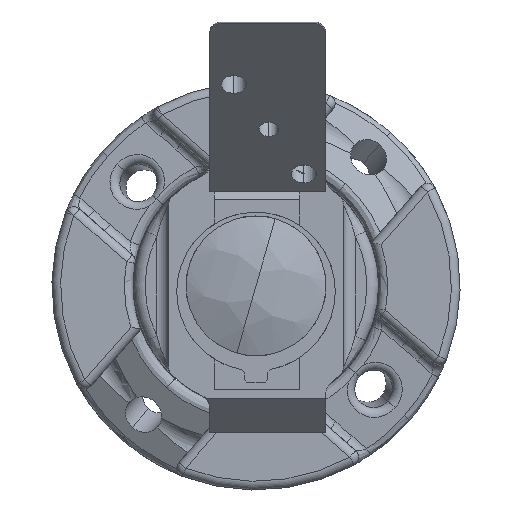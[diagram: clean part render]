
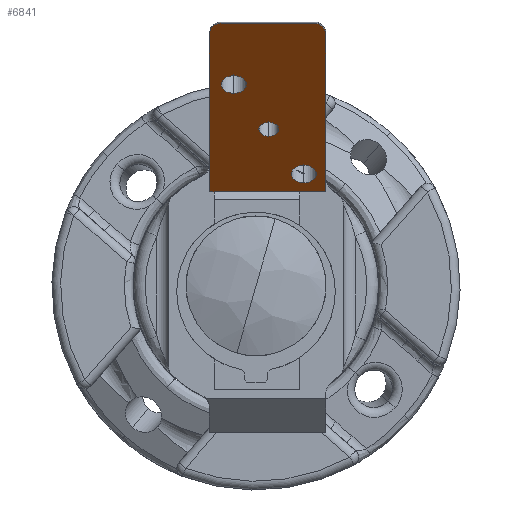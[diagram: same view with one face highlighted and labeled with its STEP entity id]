
A CAD part, left-side view. The second image highlights one B-rep face of the part: STEP entity #6841.
In plain terms, the highlighted planar face has unit normal (-0.699, 0, -0.715) as drawn and (-1, 0, 0) by its records, which use the part's own axes.
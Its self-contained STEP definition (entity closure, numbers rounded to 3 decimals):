
#52 = CARTESIAN_POINT ( 'NONE',  ( 0., 2.1, -13.167 ) ) ;
#118 = CARTESIAN_POINT ( 'NONE',  ( 0., 2.1, -13.167 ) ) ;
#126 = CARTESIAN_POINT ( 'NONE',  ( 0., 1., -20.667 ) ) ;
#142 = VERTEX_POINT ( 'NONE', #10950 ) ;
#191 = CARTESIAN_POINT ( 'NONE',  ( 0., 7.747, 0. ) ) ;
#354 = VERTEX_POINT ( 'NONE', #11152 ) ;
#400 = FACE_BOUND ( 'NONE', #9068, .T. ) ;
#443 = ORIENTED_EDGE ( 'NONE', *, *, #807, .T. ) ;
#456 = CARTESIAN_POINT ( 'NONE',  ( 0., 0.414, -20.667 ) ) ;
#501 = CARTESIAN_POINT ( 'NONE',  ( 0., 8.1, -1.092 ) ) ;
#636 = DIRECTION ( 'NONE',  ( 1., 0., 0. ) ) ;
#666 = DIRECTION ( 'NONE',  ( 1., 0., 0. ) ) ;
#770 = CARTESIAN_POINT ( 'NONE',  ( 0., 10., -20.667 ) ) ;
#784 = CARTESIAN_POINT ( 'NONE',  ( 0., 9., -20.667 ) ) ;
#807 = EDGE_CURVE ( 'NONE', #142, #1894, #3769, .T. ) ;
#948 = AXIS2_PLACEMENT_3D ( 'NONE', #9027, #3540, #9936 ) ;
#1033 = AXIS2_PLACEMENT_3D ( 'NONE', #2853, #9254, #3773 ) ;
#1038 = DIRECTION ( 'NONE',  ( 0., 0., -1. ) ) ;
#1114 = EDGE_CURVE ( 'NONE', #8688, #1168, #11485, .T. ) ;
#1168 = VERTEX_POINT ( 'NONE', #126 ) ;
#1256 = EDGE_CURVE ( 'NONE', #7452, #10391, #9769, .T. ) ;
#1373 = CARTESIAN_POINT ( 'NONE',  ( 0., 0., -20.081 ) ) ;
#1410 = CIRCLE ( 'NONE', #4508, 1.075 ) ;
#1517 = VECTOR ( 'NONE', #10718, 1000. ) ;
#1565 = EDGE_CURVE ( 'NONE', #6971, #3848, #7753, .T. ) ;
#1810 = EDGE_CURVE ( 'NONE', #9516, #8688, #4943, .T. ) ;
#1830 = CARTESIAN_POINT ( 'NONE',  ( 0., 2.1, -14.242 ) ) ;
#1894 = VERTEX_POINT ( 'NONE', #1830 ) ;
#1958 = CIRCLE ( 'NONE', #948, 0.85 ) ;
#2292 = CARTESIAN_POINT ( 'NONE',  ( 0., 0., -19.252 ) ) ;
#2381 = VERTEX_POINT ( 'NONE', #2292 ) ;
#2387 = DIRECTION ( 'NONE',  ( 0., -1., 0. ) ) ;
#2520 = CARTESIAN_POINT ( 'NONE',  ( 0., 9., -20.667 ) ) ;
#2543 = CIRCLE ( 'NONE', #10610, 1.075 ) ;
#2807 = VECTOR ( 'NONE', #8281, 1000. ) ;
#2839 = CARTESIAN_POINT ( 'NONE',  ( 0., 5.1, -6.817 ) ) ;
#2850 = ORIENTED_EDGE ( 'NONE', *, *, #5952, .F. ) ;
#2853 = CARTESIAN_POINT ( 'NONE',  ( 0., 5.1, -7.667 ) ) ;
#2902 = ORIENTED_EDGE ( 'NONE', *, *, #1256, .F. ) ;
#3011 = CARTESIAN_POINT ( 'NONE',  ( 0., 10., -19.252 ) ) ;
#3383 = DIRECTION ( 'NONE',  ( 1., 0., 0. ) ) ;
#3479 = AXIS2_PLACEMENT_3D ( 'NONE', #9758, #636, #7043 ) ;
#3540 = DIRECTION ( 'NONE',  ( 1., 0., 0. ) ) ;
#3687 = ORIENTED_EDGE ( 'NONE', *, *, #1565, .T. ) ;
#3709 = AXIS2_PLACEMENT_3D ( 'NONE', #52, #10752, #6571 ) ;
#3759 = ORIENTED_EDGE ( 'NONE', *, *, #3873, .T. ) ;
#3769 = CIRCLE ( 'NONE', #3709, 1.075 ) ;
#3773 = DIRECTION ( 'NONE',  ( 0., 0., -1. ) ) ;
#3848 = VERTEX_POINT ( 'NONE', #2839 ) ;
#3873 = EDGE_CURVE ( 'NONE', #1894, #142, #1410, .T. ) ;
#4108 =( BOUNDED_CURVE ( )  B_SPLINE_CURVE ( 3, ( #5914, #456, #1373, #7788 ),
 .UNSPECIFIED., .F., .F. ) 
 B_SPLINE_CURVE_WITH_KNOTS ( ( 4, 4 ),
 ( 3.142, 4.712 ),
 .UNSPECIFIED. ) 
 CURVE ( )  GEOMETRIC_REPRESENTATION_ITEM ( )  RATIONAL_B_SPLINE_CURVE ( ( 1., 0.805, 0.805, 1. ) ) 
 REPRESENTATION_ITEM ( '' )  );
#4508 = AXIS2_PLACEMENT_3D ( 'NONE', #118, #6536, #1038 ) ;
#4604 = VERTEX_POINT ( 'NONE', #8986 ) ;
#4613 = ORIENTED_EDGE ( 'NONE', *, *, #1810, .T. ) ;
#4745 = ORIENTED_EDGE ( 'NONE', *, *, #10178, .T. ) ;
#4894 = VECTOR ( 'NONE', #10756, 1000. ) ;
#4919 = CARTESIAN_POINT ( 'NONE',  ( 0., 0.41, 0. ) ) ;
#4943 =( BOUNDED_CURVE ( )  B_SPLINE_CURVE ( 3, ( #8023, #9802, #11646, #2520 ),
 .UNSPECIFIED., .F., .F. ) 
 B_SPLINE_CURVE_WITH_KNOTS ( ( 4, 4 ),
 ( 4.712, 6.283 ),
 .UNSPECIFIED. ) 
 CURVE ( )  GEOMETRIC_REPRESENTATION_ITEM ( )  RATIONAL_B_SPLINE_CURVE ( ( 1., 0.805, 0.805, 1. ) ) 
 REPRESENTATION_ITEM ( '' )  );
#5192 = CARTESIAN_POINT ( 'NONE',  ( 0., 10., 0. ) ) ;
#5246 = LINE ( 'NONE', #10072, #2807 ) ;
#5289 = FACE_OUTER_BOUND ( 'NONE', #8384, .T. ) ;
#5526 = CARTESIAN_POINT ( 'NONE',  ( 0., 0., 0. ) ) ;
#5574 = FACE_BOUND ( 'NONE', #6415, .T. ) ;
#5765 = DIRECTION ( 'NONE',  ( 0., -1., 0. ) ) ;
#5914 = CARTESIAN_POINT ( 'NONE',  ( 0., 1., -20.667 ) ) ;
#5934 = VERTEX_POINT ( 'NONE', #501 ) ;
#5952 = EDGE_CURVE ( 'NONE', #10391, #6490, #8572, .T. ) ;
#6173 = CARTESIAN_POINT ( 'NONE',  ( 0., 8.1, -2.167 ) ) ;
#6415 = EDGE_LOOP ( 'NONE', ( #3687, #8119 ) ) ;
#6490 = VERTEX_POINT ( 'NONE', #4919 ) ;
#6536 = DIRECTION ( 'NONE',  ( 1., 0., 0. ) ) ;
#6571 = DIRECTION ( 'NONE',  ( 0., 0., -1. ) ) ;
#6841 = ADVANCED_FACE ( 'NONE', ( #10432, #5574, #5289, #400 ), #8842, .F. ) ;
#6971 = VERTEX_POINT ( 'NONE', #8400 ) ;
#7043 = DIRECTION ( 'NONE',  ( 0., 0., -1. ) ) ;
#7079 = DIRECTION ( 'NONE',  ( 0., 0., -1. ) ) ;
#7452 = VERTEX_POINT ( 'NONE', #7579 ) ;
#7579 = CARTESIAN_POINT ( 'NONE',  ( 0., 10., 0. ) ) ;
#7719 = EDGE_CURVE ( 'NONE', #3848, #6971, #1958, .T. ) ;
#7753 = CIRCLE ( 'NONE', #1033, 0.85 ) ;
#7788 = CARTESIAN_POINT ( 'NONE',  ( 0., 0., -19.252 ) ) ;
#7979 = ORIENTED_EDGE ( 'NONE', *, *, #8276, .T. ) ;
#8013 = CARTESIAN_POINT ( 'NONE',  ( 0., 0.41, 0. ) ) ;
#8023 = CARTESIAN_POINT ( 'NONE',  ( 0., 10., -19.252 ) ) ;
#8119 = ORIENTED_EDGE ( 'NONE', *, *, #7719, .T. ) ;
#8231 = ORIENTED_EDGE ( 'NONE', *, *, #1114, .T. ) ;
#8234 = CARTESIAN_POINT ( 'NONE',  ( 0., 10., 0. ) ) ;
#8269 = ORIENTED_EDGE ( 'NONE', *, *, #8804, .F. ) ;
#8276 = EDGE_CURVE ( 'NONE', #2381, #4604, #11691, .T. ) ;
#8281 = DIRECTION ( 'NONE',  ( 0., -1., 0. ) ) ;
#8384 = EDGE_LOOP ( 'NONE', ( #8231, #9708, #7979, #8269, #2850, #2902, #10273, #4613 ) ) ;
#8400 = CARTESIAN_POINT ( 'NONE',  ( 0., 5.1, -8.517 ) ) ;
#8572 = LINE ( 'NONE', #8013, #10742 ) ;
#8641 = EDGE_CURVE ( 'NONE', #5934, #354, #9128, .T. ) ;
#8655 = EDGE_CURVE ( 'NONE', #9516, #7452, #8824, .T. ) ;
#8688 = VERTEX_POINT ( 'NONE', #784 ) ;
#8804 = EDGE_CURVE ( 'NONE', #6490, #4604, #5246, .T. ) ;
#8824 = LINE ( 'NONE', #5192, #1517 ) ;
#8842 = PLANE ( 'NONE',  #3479 ) ;
#8874 = CARTESIAN_POINT ( 'NONE',  ( 0., 8.1, -2.167 ) ) ;
#8986 = CARTESIAN_POINT ( 'NONE',  ( 0., 0., 0. ) ) ;
#9027 = CARTESIAN_POINT ( 'NONE',  ( 0., 5.1, -7.667 ) ) ;
#9068 = EDGE_LOOP ( 'NONE', ( #10954, #4745 ) ) ;
#9075 = VECTOR ( 'NONE', #5765, 1000. ) ;
#9128 = CIRCLE ( 'NONE', #10131, 1.075 ) ;
#9254 = DIRECTION ( 'NONE',  ( 1., 0., 0. ) ) ;
#9516 = VERTEX_POINT ( 'NONE', #3011 ) ;
#9708 = ORIENTED_EDGE ( 'NONE', *, *, #10087, .T. ) ;
#9758 = CARTESIAN_POINT ( 'NONE',  ( 0., 10., 0. ) ) ;
#9769 = LINE ( 'NONE', #8234, #4894 ) ;
#9785 = DIRECTION ( 'NONE',  ( 0., 0., -1. ) ) ;
#9802 = CARTESIAN_POINT ( 'NONE',  ( 0., 10., -20.081 ) ) ;
#9936 = DIRECTION ( 'NONE',  ( 0., 0., -1. ) ) ;
#10072 = CARTESIAN_POINT ( 'NONE',  ( 0., 10., 0. ) ) ;
#10074 = DIRECTION ( 'NONE',  ( 0., 0., 1. ) ) ;
#10087 = EDGE_CURVE ( 'NONE', #1168, #2381, #4108, .T. ) ;
#10131 = AXIS2_PLACEMENT_3D ( 'NONE', #8874, #3383, #9785 ) ;
#10178 = EDGE_CURVE ( 'NONE', #354, #5934, #2543, .T. ) ;
#10273 = ORIENTED_EDGE ( 'NONE', *, *, #8655, .F. ) ;
#10391 = VERTEX_POINT ( 'NONE', #191 ) ;
#10432 = FACE_BOUND ( 'NONE', #11241, .T. ) ;
#10610 = AXIS2_PLACEMENT_3D ( 'NONE', #6173, #666, #7079 ) ;
#10718 = DIRECTION ( 'NONE',  ( 0., 0., 1. ) ) ;
#10742 = VECTOR ( 'NONE', #2387, 1000. ) ;
#10752 = DIRECTION ( 'NONE',  ( 1., 0., 0. ) ) ;
#10756 = DIRECTION ( 'NONE',  ( 0., -1., 0. ) ) ;
#10950 = CARTESIAN_POINT ( 'NONE',  ( 0., 2.1, -12.092 ) ) ;
#10954 = ORIENTED_EDGE ( 'NONE', *, *, #8641, .T. ) ;
#11152 = CARTESIAN_POINT ( 'NONE',  ( 0., 8.1, -3.242 ) ) ;
#11241 = EDGE_LOOP ( 'NONE', ( #443, #3759 ) ) ;
#11391 = VECTOR ( 'NONE', #10074, 1000. ) ;
#11485 = LINE ( 'NONE', #770, #9075 ) ;
#11646 = CARTESIAN_POINT ( 'NONE',  ( 0., 9.586, -20.667 ) ) ;
#11691 = LINE ( 'NONE', #5526, #11391 ) ;
